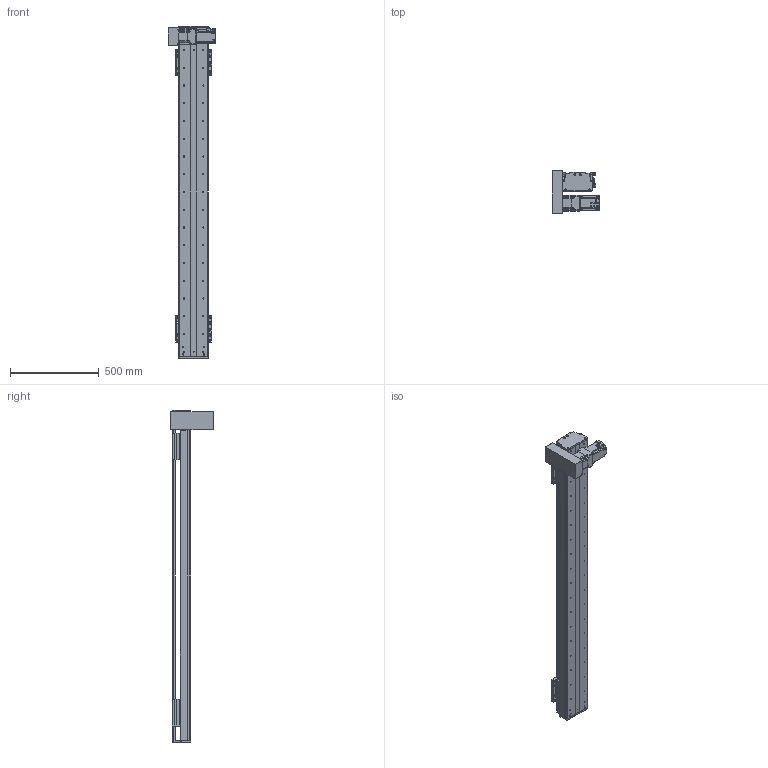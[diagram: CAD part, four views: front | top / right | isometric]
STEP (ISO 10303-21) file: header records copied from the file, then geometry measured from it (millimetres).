
FILE_DESCRIPTION(/* description */ (''),/* implementation_level */ '2;1');
FILE_NAME(/* name */ 'C:\Users\PC\Desktop\3D도면\STEP\DSB165-DL7G-W1500-R.stp',/* time_stamp */ '2018-06-25T15:40:05+09:00',/* author */ ('PC'),/* organization */ (''),/* preprocessor_version */ 'ST-DEVELOPER v16.5',/* originating_system */ 'Autodesk Inventor 2017',/* authorisation */ '');
FILE_SCHEMA (('AUTOMOTIVE_DESIGN { 1 0 10303 214 3 1 1 }'));
Length unit declared in the file: millimetre
Products named in the file (12): DSB165-L; DSR165-BASE_S; hg-kr73_; ab0901-p0401300102; 11-DBS165 BELT COVER; DBS165-COVER; DBS165-COVER_1; DBS165-UP COVER; DBS165-TABLE(MSA20S); DSR126-SENSOR DOG; SENSOR BRACKET(EE-SX674A); pm-y65_step
Assembly tree (16 placements, depth 2):
  DSB165-L
    DSR165-BASE_S
    hg-kr73_
    ab0901-p0401300102
    11-DBS165 BELT COVER
    DBS165-COVER
    DBS165-COVER_1
    DBS165-UP COVER
    DBS165-TABLE(MSA20S)  x2
    DSR126-SENSOR DOG
    pm-y65_step  x3
    SENSOR BRACKET(EE-SX674A)  x3
Bounding box: 270 x 242 x 1870 mm (x, y, z)
Volume: 11153648.2 mm3; surface area: 2597051.7 mm2
Topology: 17 solids, 22 shells, 1695 faces, 4545 edges, 2994 vertices
Faces by surface type: plane 926, cylinder 633, cone 124, sphere 8, torus 4
Full cylindrical faces by diameter (mm): 2.459 x20, 3.5 x6, 4.134 x42, 4.5 x18, 5 x27, 5.5 x36, 5.9 x4, 6 x8, 6.6 x14, 6.647 x52, 6.8 x1, 7 x4, 7.6 x4, 8 x1, 8.4 x1, 8.5 x24, 8.7 x1, 9.5 x32, 11 x6, 14 x16, 19 x1, 22 x1, 24 x1, 25 x1, 28 x1, 67 x1, 70 x2, 80 x1
Entity records: 36029 total; most frequent: DIRECTION 6380, CARTESIAN_POINT 6163, ORIENTED_EDGE 5590, EDGE_CURVE 2800, AXIS2_PLACEMENT_3D 2360, VERTEX_POINT 2005, EDGE_LOOP 1787, LINE 1660
